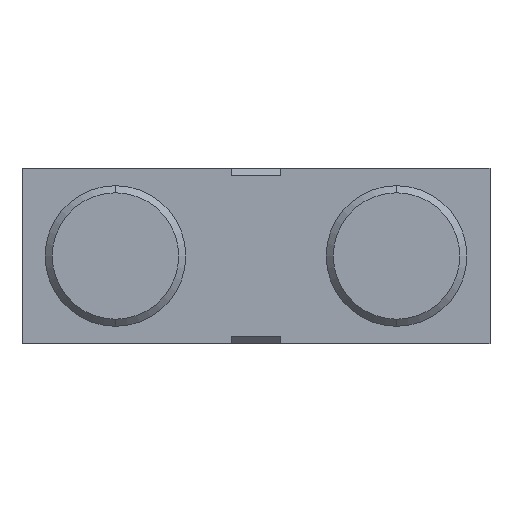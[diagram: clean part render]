
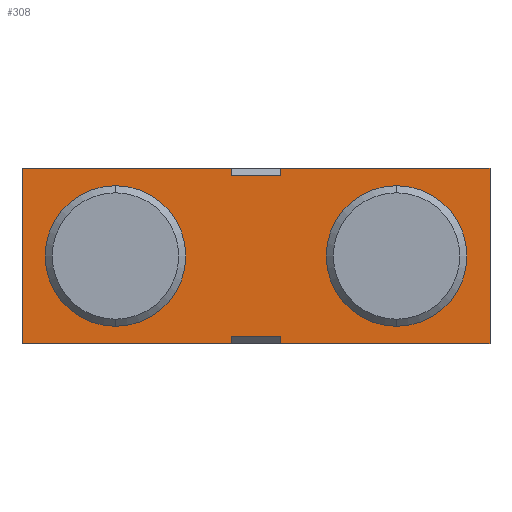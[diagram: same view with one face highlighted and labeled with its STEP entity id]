
A CAD part, front view. The second image highlights one B-rep face of the part: STEP entity #308.
In plain terms, the highlighted planar face has unit normal (0, -1, 0).
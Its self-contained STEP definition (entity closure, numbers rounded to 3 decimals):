
#1=DIRECTION('',(0.,0.,1.));
#2=VECTOR('',#1,0.1);
#3=CARTESIAN_POINT('',(0.35,0.,1.15));
#4=LINE('',#3,#2);
#5=DIRECTION('',(-1.,0.,0.));
#6=VECTOR('',#5,0.7);
#7=CARTESIAN_POINT('',(0.35,0.,-1.15));
#8=LINE('',#7,#6);
#9=DIRECTION('',(0.,0.,-1.));
#10=VECTOR('',#9,0.1);
#11=CARTESIAN_POINT('',(-0.35,0.,-1.15));
#12=LINE('',#11,#10);
#13=CARTESIAN_POINT('',(2.,0.,0.));
#14=DIRECTION('',(0.,-1.,0.));
#15=DIRECTION('',(1.,0.,0.));
#16=AXIS2_PLACEMENT_3D('',#13,#14,#15);
#18=CARTESIAN_POINT('',(2.,0.,0.));
#19=DIRECTION('',(0.,-1.,0.));
#20=DIRECTION('',(-1.,0.,0.));
#21=AXIS2_PLACEMENT_3D('',#18,#19,#20);
#23=CARTESIAN_POINT('',(-2.,0.,0.));
#24=DIRECTION('',(0.,-1.,0.));
#25=DIRECTION('',(1.,0.,0.));
#26=AXIS2_PLACEMENT_3D('',#23,#24,#25);
#28=CARTESIAN_POINT('',(-2.,0.,0.));
#29=DIRECTION('',(0.,-1.,0.));
#30=DIRECTION('',(-1.,0.,0.));
#31=AXIS2_PLACEMENT_3D('',#28,#29,#30);
#37=DIRECTION('',(0.,0.,1.));
#38=VECTOR('',#37,0.1);
#39=CARTESIAN_POINT('',(-0.35,0.,1.15));
#40=LINE('',#39,#38);
#49=DIRECTION('',(-1.,0.,0.));
#50=VECTOR('',#49,2.98);
#51=CARTESIAN_POINT('',(-0.35,0.,1.25));
#52=LINE('',#51,#50);
#57=DIRECTION('',(-1.,0.,0.));
#58=VECTOR('',#57,2.98);
#59=CARTESIAN_POINT('',(3.33,0.,1.25));
#60=LINE('',#59,#58);
#65=DIRECTION('',(0.,0.,-1.));
#66=VECTOR('',#65,2.5);
#67=CARTESIAN_POINT('',(-3.33,0.,1.25));
#68=LINE('',#67,#66);
#77=DIRECTION('',(1.,0.,0.));
#78=VECTOR('',#77,2.98);
#79=CARTESIAN_POINT('',(0.35,0.,-1.25));
#80=LINE('',#79,#78);
#85=DIRECTION('',(1.,0.,0.));
#86=VECTOR('',#85,2.98);
#87=CARTESIAN_POINT('',(-3.33,0.,-1.25));
#88=LINE('',#87,#86);
#109=DIRECTION('',(0.,0.,-1.));
#110=VECTOR('',#109,0.1);
#111=CARTESIAN_POINT('',(0.35,0.,-1.15));
#112=LINE('',#111,#110);
#121=DIRECTION('',(0.,0.,1.));
#122=VECTOR('',#121,2.5);
#123=CARTESIAN_POINT('',(3.33,0.,-1.25));
#124=LINE('',#123,#122);
#197=DIRECTION('',(-1.,0.,0.));
#198=VECTOR('',#197,0.7);
#199=CARTESIAN_POINT('',(0.35,0.,1.15));
#200=LINE('',#199,#198);
#201=CARTESIAN_POINT('',(-0.35,0.,1.15));
#202=CARTESIAN_POINT('',(-0.35,0.,1.25));
#203=VERTEX_POINT('',#201);
#204=VERTEX_POINT('',#202);
#205=CARTESIAN_POINT('',(0.35,0.,1.15));
#206=VERTEX_POINT('',#205);
#207=CARTESIAN_POINT('',(0.35,0.,1.25));
#208=VERTEX_POINT('',#207);
#209=CARTESIAN_POINT('',(3.33,0.,1.25));
#210=VERTEX_POINT('',#209);
#211=CARTESIAN_POINT('',(3.33,0.,-1.25));
#212=VERTEX_POINT('',#211);
#213=CARTESIAN_POINT('',(0.35,0.,-1.25));
#214=VERTEX_POINT('',#213);
#215=CARTESIAN_POINT('',(0.35,0.,-1.15));
#216=VERTEX_POINT('',#215);
#217=CARTESIAN_POINT('',(-0.35,0.,-1.15));
#218=VERTEX_POINT('',#217);
#219=CARTESIAN_POINT('',(-0.35,0.,-1.25));
#220=VERTEX_POINT('',#219);
#221=CARTESIAN_POINT('',(-3.33,0.,-1.25));
#222=VERTEX_POINT('',#221);
#223=CARTESIAN_POINT('',(-3.33,0.,1.25));
#224=VERTEX_POINT('',#223);
#225=CARTESIAN_POINT('',(2.755,0.,0.));
#226=CARTESIAN_POINT('',(1.245,0.,0.));
#227=VERTEX_POINT('',#225);
#228=VERTEX_POINT('',#226);
#229=CARTESIAN_POINT('',(-1.245,0.,0.));
#230=CARTESIAN_POINT('',(-2.755,0.,0.));
#231=VERTEX_POINT('',#229);
#232=VERTEX_POINT('',#230);
#265=CARTESIAN_POINT('',(0.,0.,0.));
#266=DIRECTION('',(0.,1.,0.));
#267=DIRECTION('',(1.,0.,0.));
#268=AXIS2_PLACEMENT_3D('',#265,#266,#267);
#269=PLANE('',#268);
#271=ORIENTED_EDGE('',*,*,#270,.F.);
#273=ORIENTED_EDGE('',*,*,#272,.F.);
#275=ORIENTED_EDGE('',*,*,#274,.T.);
#277=ORIENTED_EDGE('',*,*,#276,.F.);
#279=ORIENTED_EDGE('',*,*,#278,.F.);
#281=ORIENTED_EDGE('',*,*,#280,.F.);
#283=ORIENTED_EDGE('',*,*,#282,.F.);
#285=ORIENTED_EDGE('',*,*,#284,.T.);
#287=ORIENTED_EDGE('',*,*,#286,.T.);
#289=ORIENTED_EDGE('',*,*,#288,.F.);
#291=ORIENTED_EDGE('',*,*,#290,.F.);
#293=ORIENTED_EDGE('',*,*,#292,.F.);
#294=EDGE_LOOP('',(#271,#273,#275,#277,#279,#281,#283,#285,#287,#289,#291,
#293));
#295=FACE_OUTER_BOUND('',#294,.F.);
#297=ORIENTED_EDGE('',*,*,#296,.T.);
#299=ORIENTED_EDGE('',*,*,#298,.T.);
#300=EDGE_LOOP('',(#297,#299));
#301=FACE_BOUND('',#300,.F.);
#303=ORIENTED_EDGE('',*,*,#302,.T.);
#305=ORIENTED_EDGE('',*,*,#304,.T.);
#306=EDGE_LOOP('',(#303,#305));
#307=FACE_BOUND('',#306,.F.);
#308=ADVANCED_FACE('',(#295,#301,#307),#269,.F.);
#17=CIRCLE('',#16,0.755);
#22=CIRCLE('',#21,0.755);
#27=CIRCLE('',#26,0.755);
#32=CIRCLE('',#31,0.755);
#270=EDGE_CURVE('',#203,#204,#40,.T.);
#272=EDGE_CURVE('',#206,#203,#200,.T.);
#274=EDGE_CURVE('',#206,#208,#4,.T.);
#276=EDGE_CURVE('',#210,#208,#60,.T.);
#278=EDGE_CURVE('',#212,#210,#124,.T.);
#280=EDGE_CURVE('',#214,#212,#80,.T.);
#282=EDGE_CURVE('',#216,#214,#112,.T.);
#284=EDGE_CURVE('',#216,#218,#8,.T.);
#286=EDGE_CURVE('',#218,#220,#12,.T.);
#288=EDGE_CURVE('',#222,#220,#88,.T.);
#290=EDGE_CURVE('',#224,#222,#68,.T.);
#292=EDGE_CURVE('',#204,#224,#52,.T.);
#296=EDGE_CURVE('',#227,#228,#17,.T.);
#298=EDGE_CURVE('',#228,#227,#22,.T.);
#302=EDGE_CURVE('',#231,#232,#27,.T.);
#304=EDGE_CURVE('',#232,#231,#32,.T.);
